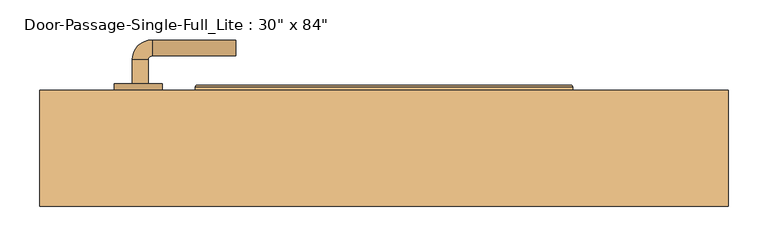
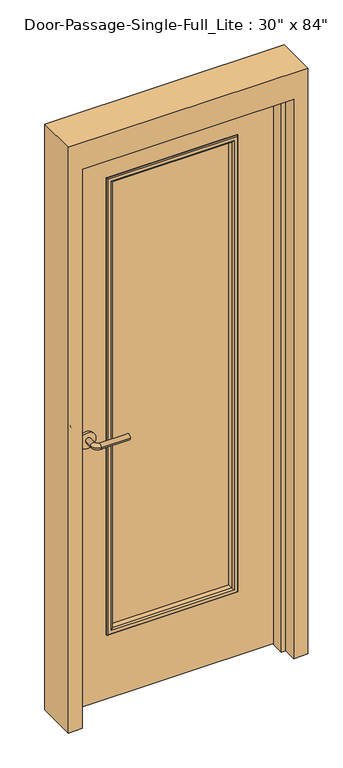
"""IFC4 building model written with IfcOpenShell, lengths in millimetres: door geometry."""

from ifc_helpers import new_model, si_unit, point, frame, frame_2d, origin, place, context, project, spatial, polyline, circle_curve, ellipse_curve, trimmed, segment, composite_curve, outline, extrude, faceted_brep, source, transform, mapped, element, save
from ifc_brep_helpers import plane_surface, cylinder_surface, revolved_surface, advanced_brep


def door_00adfaa7(model_context):
    return source(origin(), model_context, "Body", "SolidModel", [
        advanced_brep(
        [(-315.990625, 104.7125, 1016.0), (-295.990625, 104.7125, 1016.0), (-295.990625, 74.7125, 1016.0), (-315.990625, 74.7125, 1016.0), (-290.990625, 69.7125, 1016.0), (-290.990625, 49.7125, 1016.0), (-185.990625, 49.7125, 1016.0), (-185.990625, 69.7125, 1016.0)],
        [
            (0, 1, circle_curve(frame((-305.990625, 104.7125, 1016.0), z_axis=(0.0, 1.0, 0.0), x_axis=(1.0, 0.0, 0.0)), 10.0)),
            (1, 0, circle_curve(frame((-305.990625, 104.7125, 1016.0), z_axis=(0.0, 1.0, 0.0), x_axis=(1.0, 0.0, 0.0)), 10.0)),
            (1, 2),
            (2, 3, circle_curve(frame((-305.990625, 74.7125, 1016.0), z_axis=(0.0, 1.0, 0.0), x_axis=(1.0, 0.0, 0.0)), 10.0)),
            (3, 0),
            (3, 2, circle_curve(frame((-305.990625, 74.7125, 1016.0), z_axis=(0.0, 1.0, 0.0), x_axis=(1.0, 0.0, 0.0)), 10.0)),
            (4, 5, circle_curve(frame((-290.990625, 59.7125, 1016.0), z_axis=(-1.0, 0.0, 0.0), x_axis=(0.0, 1.0, 0.0)), 10.0)),
            (5, 3, circle_curve(frame((-290.990625, 74.7125, 1016.0), z_axis=(0.0, 0.0, -1.0), x_axis=(-1.0, 0.0, 0.0)), 25.0)),
            (2, 4, circle_curve(frame((-290.990625, 74.7125, 1016.0), z_axis=(0.0, 0.0, 1.0), x_axis=(-1.0, 0.0, 0.0)), 5.0)),
            (5, 4, circle_curve(frame((-290.990625, 59.7125, 1016.0), z_axis=(-1.0, 0.0, 0.0), x_axis=(0.0, 1.0, 0.0)), 10.0)),
            (6, 7, circle_curve(frame((-185.990625, 59.7125, 1016.0), z_axis=(1.0, 0.0, 0.0), x_axis=(0.0, 1.0, 0.0)), 10.0)),
            (7, 6, circle_curve(frame((-185.990625, 59.7125, 1016.0), z_axis=(1.0, 0.0, 0.0), x_axis=(0.0, 1.0, 0.0)), 10.0)),
            (4, 7),
            (6, 5),
        ],
        [
            plane_surface(frame((-305.990625, 104.7125, 1016.0), z_axis=(0.0, 1.0, 0.0), x_axis=(0.0, 0.0, 1.0))),
            cylinder_surface(frame((-305.990625, 104.7125, 1016.0), z_axis=(0.0, 1.0, 0.0), x_axis=(1.0, 0.0, 0.0)), 10.0),
            revolved_surface(trimmed(ellipse_curve(frame((-305.990625, 74.7125, 1016.0), z_axis=(0.0, -1.0, 0.0), x_axis=(1.0, 0.0, 0.0)), 10.0, 10.0), [point((-315.990625, 74.7125, 1016.0))], [point((-295.990625, 74.7125, 1016.0))], True, "CARTESIAN"), (-290.990625, 74.7125, 1016.0), (0.0, 0.0, -1.0)),
            revolved_surface(trimmed(ellipse_curve(frame((-305.990625, 74.7125, 1016.0), z_axis=(0.0, -1.0, 0.0), x_axis=(1.0, 0.0, 0.0)), 10.0, 10.0), [point((-295.990625, 74.7125, 1016.0))], [point((-315.990625, 74.7125, 1016.0))], True, "CARTESIAN"), (-290.990625, 74.7125, 1016.0), (0.0, 0.0, -1.0)),
            plane_surface(frame((-185.990625, 59.7125, 1016.0), z_axis=(1.0, 0.0, 0.0), x_axis=(0.0, 0.0, 1.0))),
            cylinder_surface(frame((-290.990625, 59.7125, 1016.0), z_axis=(-1.0, 0.0, 0.0), x_axis=(0.0, 1.0, 0.0)), 10.0),
        ],
        [
            (0, [[1, 2]]),
            (1, [[3, 4, 5, -2]]),
            (1, [[-5, 6, -3, -1]]),
            (2, [[7, 8, -4, 9]]),
            (3, [[10, -9, -6, -8]]),
            (4, [[11, 12]]),
            (5, [[13, -11, 14, -7]]),
            (5, [[-14, -12, -13, -10]]),
        ],
    ),
        extrude(outline(composite_curve([segment(trimmed(circle_curve(frame_2d((1016.0, -308.490625)), 30.0), [point((1016.0, -338.490625))], [point((1016.0, -278.490625))], False, "CARTESIAN"), True, "CONTINUOUS"), segment(trimmed(circle_curve(frame_2d((1016.0, -308.490625)), 30.0), [point((1016.0, -278.490625))], [point((1016.0, -338.490625))], False, "CARTESIAN"), True, "CONTINUOUS")], self_intersect=False)), frame((0.0, 104.7125, 0.0), z_axis=(0.0, 1.0, 0.0), x_axis=(0.0, 0.0, 1.0)), (0.0, 0.0, 1.0), 8.0),
        advanced_brep(
        [(-315.990625, 165.1625, 1016.0), (-295.990625, 165.1625, 1016.0), (-315.990625, 195.1625, 1016.0), (-295.990625, 195.1625, 1016.0), (-290.990625, 200.1625, 1016.0), (-290.990625, 220.1625, 1016.0), (-185.990625, 220.1625, 1016.0), (-185.990625, 200.1625, 1016.0)],
        [
            (0, 1, circle_curve(frame((-305.990625, 165.1625, 1016.0), z_axis=(0.0, -1.0, 0.0), x_axis=(1.0, 0.0, 0.0)), 10.0)),
            (1, 0, circle_curve(frame((-305.990625, 165.1625, 1016.0), z_axis=(0.0, -1.0, 0.0), x_axis=(1.0, 0.0, 0.0)), 10.0)),
            (0, 2),
            (2, 3, circle_curve(frame((-305.990625, 195.1625, 1016.0), z_axis=(0.0, -1.0, 0.0), x_axis=(1.0, 0.0, 0.0)), 10.0)),
            (3, 1),
            (3, 2, circle_curve(frame((-305.990625, 195.1625, 1016.0), z_axis=(0.0, -1.0, 0.0), x_axis=(1.0, 0.0, 0.0)), 10.0)),
            (4, 3, circle_curve(frame((-290.990625, 195.1625, 1016.0), z_axis=(0.0, 0.0, 1.0), x_axis=(-1.0, 0.0, 0.0)), 5.0)),
            (2, 5, circle_curve(frame((-290.990625, 195.1625, 1016.0), z_axis=(0.0, 0.0, -1.0), x_axis=(-1.0, 0.0, 0.0)), 25.0)),
            (5, 4, circle_curve(frame((-290.990625, 210.1625, 1016.0), z_axis=(-1.0, 0.0, 0.0), x_axis=(0.0, -1.0, 0.0)), 10.0)),
            (4, 5, circle_curve(frame((-290.990625, 210.1625, 1016.0), z_axis=(-1.0, 0.0, 0.0), x_axis=(0.0, -1.0, 0.0)), 10.0)),
            (6, 7, circle_curve(frame((-185.990625, 210.1625, 1016.0), z_axis=(1.0, 0.0, 0.0), x_axis=(0.0, -1.0, 0.0)), 10.0)),
            (7, 6, circle_curve(frame((-185.990625, 210.1625, 1016.0), z_axis=(1.0, 0.0, 0.0), x_axis=(0.0, -1.0, 0.0)), 10.0)),
            (5, 6),
            (7, 4),
        ],
        [
            plane_surface(frame((-305.990625, 165.1625, 1016.0), z_axis=(0.0, -1.0, 0.0), x_axis=(0.0, 0.0, 1.0))),
            cylinder_surface(frame((-305.990625, 165.1625, 1016.0), z_axis=(0.0, -1.0, 0.0), x_axis=(1.0, 0.0, 0.0)), 10.0),
            revolved_surface(trimmed(ellipse_curve(frame((-305.990625, 195.1625, 1016.0), z_axis=(0.0, -1.0, 0.0), x_axis=(1.0, 0.0, 0.0)), 10.0, 10.0), [point((-315.990625, 195.1625, 1016.0))], [point((-295.990625, 195.1625, 1016.0))], True, "CARTESIAN"), (-290.990625, 195.1625, 1016.0), (0.0, 0.0, -1.0)),
            revolved_surface(trimmed(ellipse_curve(frame((-305.990625, 195.1625, 1016.0), z_axis=(0.0, -1.0, 0.0), x_axis=(1.0, 0.0, 0.0)), 10.0, 10.0), [point((-295.990625, 195.1625, 1016.0))], [point((-315.990625, 195.1625, 1016.0))], True, "CARTESIAN"), (-290.990625, 195.1625, 1016.0), (0.0, 0.0, -1.0)),
            plane_surface(frame((-185.990625, 210.1625, 1016.0), z_axis=(1.0, 0.0, 0.0), x_axis=(0.0, 0.0, 1.0))),
            cylinder_surface(frame((-290.990625, 210.1625, 1016.0), z_axis=(-1.0, 0.0, 0.0), x_axis=(0.0, -1.0, 0.0)), 10.0),
        ],
        [
            (0, [[1, 2]]),
            (1, [[-1, 3, 4, 5]]),
            (1, [[-2, -5, 6, -3]]),
            (2, [[7, -4, 8, 9]]),
            (3, [[-8, -6, -7, 10]]),
            (4, [[11, 12]]),
            (5, [[-9, 13, -12, 14]]),
            (5, [[-10, -14, -11, -13]]),
        ],
    ),
        extrude(outline(composite_curve([segment(trimmed(circle_curve(frame_2d((1016.0, -308.490625)), 30.0), [point((1016.0, -338.490625))], [point((1016.0, -278.490625))], False, "CARTESIAN"), True, "CONTINUOUS"), segment(trimmed(circle_curve(frame_2d((1016.0, -308.490625)), 30.0), [point((1016.0, -278.490625))], [point((1016.0, -338.490625))], False, "CARTESIAN"), True, "CONTINUOUS")], self_intersect=False)), frame((0.0, 157.1625, 0.0), z_axis=(0.0, 1.0, 0.0), x_axis=(0.0, 0.0, 1.0)), (0.0, 0.0, 1.0), 8.0),
        extrude(outline(polyline([(228.6, 131.7625), (-228.6, 131.7625), (-228.6, 138.1125), (228.6, 138.1125), (228.6, 131.7625)])), frame((0.0, 0.0, 254.0), z_axis=(0.0, 0.0, 1.0), x_axis=(1.0, 0.0, 0.0)), (0.0, 0.0, 1.0), 1727.2),
        faceted_brep([(381.0, 107.95, 0.0), (381.0, 157.1625, 0.0), (431.8, 157.1625, 0.0), (431.8, 11.1125, 0.0), (381.0, 11.1125, 0.0), (381.0, 60.325, 0.0), (365.125, 60.325, 0.0), (365.125, 107.95, 0.0), (381.0, 107.95, 2133.6), (381.0, 157.1625, 2133.6), (-381.0, 157.1625, 2133.6), (-381.0, 157.1625, 0.0), (-431.8, 157.1625, 0.0), (-431.8, 157.1625, 2235.2), (431.8, 157.1625, 2235.2), (431.8, 11.1125, 2235.2), (-431.8, 11.1125, 2235.2), (-431.8, 11.1125, 0.0), (-381.0, 11.1125, 0.0), (-381.0, 11.1125, 2133.6), (381.0, 11.1125, 2133.6), (381.0, 60.325, 2133.6), (-381.0, 60.325, 2133.6), (-381.0, 60.325, 0.0), (-365.125, 60.325, 0.0), (-365.125, 60.325, 2117.725), (365.125, 60.325, 2117.725), (365.125, 107.95, 2117.725), (-365.125, 107.95, 2117.725), (-365.125, 107.95, 0.0), (-381.0, 107.95, 0.0), (-381.0, 107.95, 2133.6)], [[[0, 1, 2, 3, 4, 5, 6, 7]], [[1, 0, 8, 9]], [[2, 1, 9, 10, 11, 12, 13, 14]], [[3, 2, 14, 15]], [[4, 3, 15, 16, 17, 18, 19, 20]], [[5, 4, 20, 21]], [[6, 5, 21, 22, 23, 24, 25, 26]], [[7, 6, 26, 27]], [[0, 7, 27, 28, 29, 30, 31, 8]], [[9, 8, 31, 10]], [[20, 19, 22, 21]], [[26, 25, 28, 27]], [[12, 11, 30, 29, 24, 23, 18, 17]], [[11, 10, 31, 30]], [[13, 12, 17, 16]], [[19, 18, 23, 22]], [[25, 24, 29, 28]], [[15, 14, 13, 16]]]),
        extrude(outline(polyline([(2133.6, -381.0), (0.0, -381.0), (0.0, 381.0), (2133.6, 381.0), (2133.6, -381.0)]), holes=[polyline([(1981.2, -228.6), (1981.2, 228.6), (254.0, 228.6), (254.0, -228.6), (1981.2, -228.6)])]), frame((0.0, 112.7125, 0.0), z_axis=(0.0, 1.0, 0.0), x_axis=(0.0, 0.0, 1.0)), (0.0, 0.0, 1.0), 44.45),
        advanced_brep(
        [(-228.6, 138.1125, 1981.2), (-228.6, 157.1625, 1981.2), (-228.6, 157.1625, 254.0), (-228.6, 138.1125, 254.0), (-216.6, 158.1625, 1969.2), (-216.6, 138.1125, 1969.2), (-216.6, 138.1125, 266.0), (-216.6, 158.1625, 266.0), (-221.6, 163.1625, 1974.2), (-221.6, 163.1625, 261.0), (-236.6, 161.1625, 1989.2), (-234.6, 163.1625, 1987.2), (-234.6, 163.1625, 248.0), (-236.6, 161.1625, 246.0), (-236.6, 157.1625, 1989.2), (-236.6, 157.1625, 246.0), (228.6, 157.1625, 254.0), (228.6, 138.1125, 254.0), (216.6, 138.1125, 266.0), (216.6, 158.1625, 266.0), (221.6, 163.1625, 261.0), (234.6, 163.1625, 248.0), (236.6, 161.1625, 246.0), (236.6, 157.1625, 246.0), (228.6, 157.1625, 1981.2), (228.6, 138.1125, 1981.2), (216.6, 138.1125, 1969.2), (216.6, 158.1625, 1969.2), (221.6, 163.1625, 1974.2), (234.6, 163.1625, 1987.2), (236.6, 161.1625, 1989.2), (236.6, 157.1625, 1989.2)],
        [
            (0, 1),
            (1, 2),
            (2, 3),
            (3, 0),
            (4, 5),
            (5, 6),
            (6, 7),
            (7, 4),
            (8, 4, ellipse_curve(frame((-221.6, 158.1625, 1974.2), z_axis=(-0.7071067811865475, 0.0, -0.7071067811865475), x_axis=(-0.7071067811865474, 0.0, 0.7071067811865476)), 7.0710678, 5.0)),
            (7, 9, ellipse_curve(frame((-221.6, 158.1625, 261.0), z_axis=(-0.7071067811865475, 0.0, 0.7071067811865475), x_axis=(0.7071067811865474, 0.0, 0.7071067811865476)), 7.0710678, 5.0)),
            (9, 8),
            (10, 11, ellipse_curve(frame((-234.6, 161.1625, 1987.2), z_axis=(-0.7071067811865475, 0.0, -0.7071067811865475), x_axis=(-0.7071067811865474, 0.0, 0.7071067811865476)), 2.8284271, 2.0)),
            (11, 12),
            (12, 13, ellipse_curve(frame((-234.6, 161.1625, 248.0), z_axis=(-0.7071067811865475, 0.0, 0.7071067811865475), x_axis=(0.7071067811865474, 0.0, 0.7071067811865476)), 2.8284271, 2.0)),
            (13, 10),
            (14, 10),
            (13, 15),
            (15, 14),
            (2, 16),
            (16, 17),
            (17, 3),
            (6, 18),
            (18, 19),
            (19, 7),
            (19, 20, ellipse_curve(frame((221.6, 158.1625, 261.0), z_axis=(-0.7071067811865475, 0.0, -0.7071067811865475), x_axis=(-0.7071067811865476, 0.0, 0.7071067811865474)), 7.0710678, 5.0)),
            (20, 9),
            (12, 21),
            (21, 22, ellipse_curve(frame((234.6, 161.1625, 248.0), z_axis=(-0.7071067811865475, 0.0, -0.7071067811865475), x_axis=(-0.7071067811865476, 0.0, 0.7071067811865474)), 2.8284271, 2.0)),
            (22, 13),
            (22, 23),
            (23, 15),
            (16, 24),
            (24, 25),
            (25, 17),
            (18, 26),
            (26, 27),
            (27, 19),
            (27, 28, ellipse_curve(frame((221.6, 158.1625, 1974.2), z_axis=(0.7071067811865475, 0.0, -0.7071067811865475), x_axis=(-0.7071067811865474, 0.0, -0.7071067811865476)), 7.0710678, 5.0)),
            (28, 20),
            (21, 29),
            (29, 30, ellipse_curve(frame((234.6, 161.1625, 1987.2), z_axis=(0.7071067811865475, 0.0, -0.7071067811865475), x_axis=(-0.7071067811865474, 0.0, -0.7071067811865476)), 2.8284271, 2.0)),
            (30, 22),
            (30, 31),
            (31, 23),
            (31, 14),
            (1, 24),
            (0, 25),
            (5, 26),
            (4, 27),
            (8, 28),
            (11, 29),
            (10, 30),
        ],
        [
            plane_surface(frame((-228.6, 157.1625, 1981.2), z_axis=(-1.0, 0.0, 0.0), x_axis=(0.0, 0.0, -1.0))),
            plane_surface(frame((-216.6, 138.1125, 1969.2), z_axis=(1.0, 0.0, 0.0), x_axis=(0.0, 0.0, -1.0))),
            cylinder_surface(frame((-221.6, 158.1625, 1981.2), z_axis=(0.0, 0.0, 1.0), x_axis=(-1.0, 0.0, 0.0)), 5.0),
            cylinder_surface(frame((-234.6, 161.1625, 1981.2), z_axis=(0.0, 0.0, 1.0), x_axis=(-1.0, 0.0, 0.0)), 2.0),
            plane_surface(frame((-236.6, 161.1625, 1989.2), z_axis=(-1.0, 0.0, 0.0), x_axis=(0.0, 0.0, -1.0))),
            plane_surface(frame((-228.6, 157.1625, 254.0), z_axis=(0.0, 0.0, -1.0), x_axis=(1.0, 0.0, 0.0))),
            plane_surface(frame((-216.6, 138.1125, 266.0), z_axis=(0.0, 0.0, 1.0), x_axis=(1.0, 0.0, 0.0))),
            cylinder_surface(frame((-228.6, 158.1625, 261.0), z_axis=(-1.0, 0.0, 0.0), x_axis=(0.0, 0.0, -1.0)), 5.0),
            cylinder_surface(frame((-228.6, 161.1625, 248.0), z_axis=(-1.0, 0.0, 0.0), x_axis=(0.0, 0.0, -1.0)), 2.0),
            plane_surface(frame((-236.6, 161.1625, 246.0), z_axis=(0.0, 0.0, -1.0), x_axis=(1.0, 0.0, 0.0))),
            plane_surface(frame((228.6, 157.1625, 254.0), z_axis=(1.0, 0.0, 0.0), x_axis=(0.0, 0.0, 1.0))),
            plane_surface(frame((216.6, 138.1125, 266.0), z_axis=(-1.0, 0.0, 0.0), x_axis=(0.0, 0.0, 1.0))),
            cylinder_surface(frame((221.6, 158.1625, 254.0), z_axis=(0.0, 0.0, -1.0), x_axis=(1.0, 0.0, 0.0)), 5.0),
            cylinder_surface(frame((234.6, 161.1625, 254.0), z_axis=(0.0, 0.0, -1.0), x_axis=(1.0, 0.0, 0.0)), 2.0),
            plane_surface(frame((236.6, 161.1625, 246.0), z_axis=(1.0, 0.0, 0.0), x_axis=(0.0, 0.0, 1.0))),
            plane_surface(frame((236.6, 157.1625, 1989.2), z_axis=(0.0, -1.0, 0.0), x_axis=(-1.0, 0.0, 0.0))),
            plane_surface(frame((228.6, 157.1625, 1981.2), z_axis=(0.0, 0.0, 1.0), x_axis=(-1.0, 0.0, 0.0))),
            plane_surface(frame((228.6, 138.1125, 1981.2), z_axis=(0.0, -1.0, 0.0), x_axis=(-1.0, 0.0, 0.0))),
            plane_surface(frame((216.6, 138.1125, 1969.2), z_axis=(0.0, 0.0, -1.0), x_axis=(-1.0, 0.0, 0.0))),
            cylinder_surface(frame((228.6, 158.1625, 1974.2), z_axis=(1.0, 0.0, 0.0), x_axis=(0.0, 0.0, 1.0)), 5.0),
            plane_surface(frame((221.6, 163.1625, 1974.2), z_axis=(0.0, 1.0, 0.0), x_axis=(-1.0, 0.0, 0.0))),
            cylinder_surface(frame((228.6, 161.1625, 1987.2), z_axis=(1.0, 0.0, 0.0), x_axis=(0.0, 0.0, 1.0)), 2.0),
            plane_surface(frame((236.6, 161.1625, 1989.2), z_axis=(0.0, 0.0, 1.0), x_axis=(-1.0, 0.0, 0.0))),
        ],
        [
            (0, [[1, 2, 3, 4]]),
            (1, [[5, 6, 7, 8]]),
            (2, [[9, -8, 10, 11]]),
            (3, [[12, 13, 14, 15]]),
            (4, [[16, -15, 17, 18]]),
            (5, [[-3, 19, 20, 21]]),
            (6, [[-7, 22, 23, 24]]),
            (7, [[-10, -24, 25, 26]]),
            (8, [[-14, 27, 28, 29]]),
            (9, [[-17, -29, 30, 31]]),
            (10, [[-20, 32, 33, 34]]),
            (11, [[-23, 35, 36, 37]]),
            (12, [[-25, -37, 38, 39]]),
            (13, [[-28, 40, 41, 42]]),
            (14, [[-30, -42, 43, 44]]),
            (15, [[-31, -44, 45, -18], [46, -32, -19, -2]]),
            (16, [[-33, -46, -1, 47]]),
            (17, [[-21, -34, -47, -4], [48, -35, -22, -6]]),
            (18, [[-36, -48, -5, 49]]),
            (19, [[-38, -49, -9, 50]]),
            (20, [[51, -40, -27, -13], [-26, -39, -50, -11]]),
            (21, [[-41, -51, -12, 52]]),
            (22, [[-43, -52, -16, -45]]),
        ],
    ),
        advanced_brep(
        [(-228.6, 131.7625, 254.0), (-228.6, 112.7125, 254.0), (-228.6, 112.7125, 1981.2), (-228.6, 131.7625, 1981.2), (-216.6, 111.7125, 266.0), (-216.6, 131.7625, 266.0), (-216.6, 131.7625, 1969.2), (-216.6, 111.7125, 1969.2), (-221.6, 106.7125, 261.0), (-221.6, 106.7125, 1974.2), (-236.6, 108.7125, 246.0), (-234.6, 106.7125, 248.0), (-234.6, 106.7125, 1987.2), (-236.6, 108.7125, 1989.2), (-236.6, 112.7125, 246.0), (-236.6, 112.7125, 1989.2), (228.6, 112.7125, 1981.2), (228.6, 131.7625, 1981.2), (216.6, 131.7625, 1969.2), (216.6, 111.7125, 1969.2), (221.6, 106.7125, 1974.2), (234.6, 106.7125, 1987.2), (236.6, 108.7125, 1989.2), (236.6, 112.7125, 1989.2), (228.6, 112.7125, 254.0), (228.6, 131.7625, 254.0), (216.6, 131.7625, 266.0), (216.6, 111.7125, 266.0), (221.6, 106.7125, 261.0), (234.6, 106.7125, 248.0), (236.6, 108.7125, 246.0), (236.6, 112.7125, 246.0)],
        [
            (0, 1),
            (1, 2),
            (2, 3),
            (3, 0),
            (4, 5),
            (5, 6),
            (6, 7),
            (7, 4),
            (8, 4, ellipse_curve(frame((-221.6, 111.7125, 261.0), z_axis=(-0.7071067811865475, 0.0, 0.7071067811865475), x_axis=(-0.7071067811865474, 0.0, -0.7071067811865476)), 7.0710678, 5.0)),
            (7, 9, ellipse_curve(frame((-221.6, 111.7125, 1974.2), z_axis=(-0.7071067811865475, 0.0, -0.7071067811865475), x_axis=(0.7071067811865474, 0.0, -0.7071067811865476)), 7.0710678, 5.0)),
            (9, 8),
            (10, 11, ellipse_curve(frame((-234.6, 108.7125, 248.0), z_axis=(-0.7071067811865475, 0.0, 0.7071067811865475), x_axis=(-0.7071067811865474, 0.0, -0.7071067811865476)), 2.8284271, 2.0)),
            (11, 12),
            (12, 13, ellipse_curve(frame((-234.6, 108.7125, 1987.2), z_axis=(-0.7071067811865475, 0.0, -0.7071067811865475), x_axis=(0.7071067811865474, 0.0, -0.7071067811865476)), 2.8284271, 2.0)),
            (13, 10),
            (14, 10),
            (13, 15),
            (15, 14),
            (2, 16),
            (16, 17),
            (17, 3),
            (6, 18),
            (18, 19),
            (19, 7),
            (19, 20, ellipse_curve(frame((221.6, 111.7125, 1974.2), z_axis=(-0.7071067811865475, 0.0, 0.7071067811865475), x_axis=(-0.7071067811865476, 0.0, -0.7071067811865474)), 7.0710678, 5.0)),
            (20, 9),
            (12, 21),
            (21, 22, ellipse_curve(frame((234.6, 108.7125, 1987.2), z_axis=(-0.7071067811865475, 0.0, 0.7071067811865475), x_axis=(-0.7071067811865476, 0.0, -0.7071067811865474)), 2.8284271, 2.0)),
            (22, 13),
            (22, 23),
            (23, 15),
            (16, 24),
            (24, 25),
            (25, 17),
            (18, 26),
            (26, 27),
            (27, 19),
            (27, 28, ellipse_curve(frame((221.6, 111.7125, 261.0), z_axis=(0.7071067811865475, 0.0, 0.7071067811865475), x_axis=(-0.7071067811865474, 0.0, 0.7071067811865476)), 7.0710678, 5.0)),
            (28, 20),
            (21, 29),
            (29, 30, ellipse_curve(frame((234.6, 108.7125, 248.0), z_axis=(0.7071067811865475, 0.0, 0.7071067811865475), x_axis=(-0.7071067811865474, 0.0, 0.7071067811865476)), 2.8284271, 2.0)),
            (30, 22),
            (30, 31),
            (31, 23),
            (31, 14),
            (1, 24),
            (0, 25),
            (5, 26),
            (4, 27),
            (8, 28),
            (11, 29),
            (10, 30),
        ],
        [
            plane_surface(frame((-228.6, 112.7125, 254.0), z_axis=(-1.0, 0.0, 0.0), x_axis=(0.0, 0.0, 1.0))),
            plane_surface(frame((-216.6, 131.7625, 266.0), z_axis=(1.0, 0.0, 0.0), x_axis=(0.0, 0.0, 1.0))),
            cylinder_surface(frame((-221.6, 111.7125, 254.0), z_axis=(0.0, 0.0, -1.0), x_axis=(-1.0, 0.0, 0.0)), 5.0),
            cylinder_surface(frame((-234.6, 108.7125, 254.0), z_axis=(0.0, 0.0, -1.0), x_axis=(-1.0, 0.0, 0.0)), 2.0),
            plane_surface(frame((-236.6, 108.7125, 246.0), z_axis=(-1.0, 0.0, 0.0), x_axis=(0.0, 0.0, 1.0))),
            plane_surface(frame((-228.6, 112.7125, 1981.2), z_axis=(0.0, 0.0, 1.0), x_axis=(1.0, 0.0, 0.0))),
            plane_surface(frame((-216.6, 131.7625, 1969.2), z_axis=(0.0, 0.0, -1.0), x_axis=(1.0, 0.0, 0.0))),
            cylinder_surface(frame((-228.6, 111.7125, 1974.2), z_axis=(-1.0, 0.0, 0.0), x_axis=(0.0, 0.0, 1.0)), 5.0),
            cylinder_surface(frame((-228.6, 108.7125, 1987.2), z_axis=(-1.0, 0.0, 0.0), x_axis=(0.0, 0.0, 1.0)), 2.0),
            plane_surface(frame((-236.6, 108.7125, 1989.2), z_axis=(0.0, 0.0, 1.0), x_axis=(1.0, 0.0, 0.0))),
            plane_surface(frame((228.6, 112.7125, 1981.2), z_axis=(1.0, 0.0, 0.0), x_axis=(0.0, 0.0, -1.0))),
            plane_surface(frame((216.6, 131.7625, 1969.2), z_axis=(-1.0, 0.0, 0.0), x_axis=(0.0, 0.0, -1.0))),
            cylinder_surface(frame((221.6, 111.7125, 1981.2), z_axis=(0.0, 0.0, 1.0), x_axis=(1.0, 0.0, 0.0)), 5.0),
            cylinder_surface(frame((234.6, 108.7125, 1981.2), z_axis=(0.0, 0.0, 1.0), x_axis=(1.0, 0.0, 0.0)), 2.0),
            plane_surface(frame((236.6, 108.7125, 1989.2), z_axis=(1.0, 0.0, 0.0), x_axis=(0.0, 0.0, -1.0))),
            plane_surface(frame((236.6, 112.7125, 246.0), z_axis=(0.0, 1.0, 0.0), x_axis=(-1.0, 0.0, 0.0))),
            plane_surface(frame((228.6, 112.7125, 254.0), z_axis=(0.0, 0.0, -1.0), x_axis=(-1.0, 0.0, 0.0))),
            plane_surface(frame((228.6, 131.7625, 254.0), z_axis=(0.0, 1.0, 0.0), x_axis=(-1.0, 0.0, 0.0))),
            plane_surface(frame((216.6, 131.7625, 266.0), z_axis=(0.0, 0.0, 1.0), x_axis=(-1.0, 0.0, 0.0))),
            cylinder_surface(frame((228.6, 111.7125, 261.0), z_axis=(1.0, 0.0, 0.0), x_axis=(0.0, 0.0, -1.0)), 5.0),
            plane_surface(frame((221.6, 106.7125, 261.0), z_axis=(0.0, -1.0, 0.0), x_axis=(-1.0, 0.0, 0.0))),
            cylinder_surface(frame((228.6, 108.7125, 248.0), z_axis=(1.0, 0.0, 0.0), x_axis=(0.0, 0.0, -1.0)), 2.0),
            plane_surface(frame((236.6, 108.7125, 246.0), z_axis=(0.0, 0.0, -1.0), x_axis=(-1.0, 0.0, 0.0))),
        ],
        [
            (0, [[1, 2, 3, 4]]),
            (1, [[5, 6, 7, 8]]),
            (2, [[9, -8, 10, 11]]),
            (3, [[12, 13, 14, 15]]),
            (4, [[16, -15, 17, 18]]),
            (5, [[-3, 19, 20, 21]]),
            (6, [[-7, 22, 23, 24]]),
            (7, [[-10, -24, 25, 26]]),
            (8, [[-14, 27, 28, 29]]),
            (9, [[-17, -29, 30, 31]]),
            (10, [[-20, 32, 33, 34]]),
            (11, [[-23, 35, 36, 37]]),
            (12, [[-25, -37, 38, 39]]),
            (13, [[-28, 40, 41, 42]]),
            (14, [[-30, -42, 43, 44]]),
            (15, [[-31, -44, 45, -18], [46, -32, -19, -2]]),
            (16, [[-33, -46, -1, 47]]),
            (17, [[-21, -34, -47, -4], [48, -35, -22, -6]]),
            (18, [[-36, -48, -5, 49]]),
            (19, [[-38, -49, -9, 50]]),
            (20, [[51, -40, -27, -13], [-26, -39, -50, -11]]),
            (21, [[-41, -51, -12, 52]]),
            (22, [[-43, -52, -16, -45]]),
        ],
    ),
    ])


if __name__ == "__main__":
    model = new_model("IFC4")
    model_context = context("Model", 3, world=origin())
    ifc_project = project(units=[si_unit("LENGTHUNIT", "METRE", prefix="MILLI")], contexts=[model_context])
    site = spatial("IfcSite", under=ifc_project)
    building = spatial("IfcBuilding", under=site)
    placement = place(None, origin())
    door_shape = door_00adfaa7(model_context)
    element("IfcDoor", 1, ObjectType="Door-Passage-Single-Full_Lite : 30\" x 84\"", at=placement, inside=building, context=model_context, shape_type="MappedRepresentation", body=[
        mapped(door_shape, transform((0.0, 0.0, 0.0), x_axis=(1.0, 0.0, 0.0), y_axis=(0.0, 1.0, 0.0), z_axis=(0.0, 0.0, 1.0))),
    ])
    save(model, "model.ifc")
